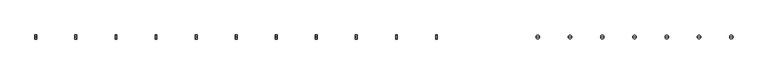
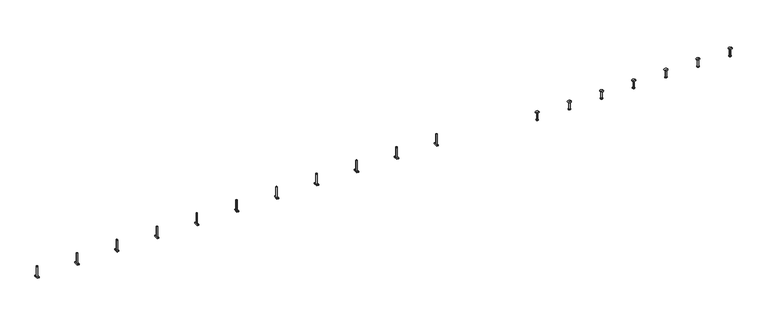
"""IFC4 building model written with IfcOpenShell, lengths in millimetres: fastener geometry, JTA-K JORDAHL® AnchorChannels : JTA-K L=6000 mm."""

from ifc_helpers import new_model, si_unit, frame, origin, place, context, project, spatial, polyline, circle_curve, source, transform, mapped, element, save
from ifc_brep_helpers import plane_surface, cylinder_surface, revolved_surface, advanced_brep


def fastener_b844dea4(model_context):
    return source(origin(), model_context, "Body", "AdvancedBrep", [
        advanced_brep(
        [(3468.8421053, 16.0, -3.0), (3468.8421053, -16.0, -3.0), (3468.8421053, -16.0, -11.0), (3468.8421053, 16.0, -11.0), (3454.8421053, 16.0, -3.0), (3454.8421053, 16.0, -11.0), (3454.8421053, -16.0, -11.0), (3454.8421053, -16.0, -3.0), (3466.8421053, 0.0, -3.0), (3456.8421053, 0.0, -3.0), (3456.8421053, 0.0, 77.0), (3466.8421053, 0.0, 77.0)],
        [
            (0, 1),
            (1, 2),
            (2, 3),
            (3, 0),
            (4, 5),
            (5, 6),
            (6, 7),
            (7, 4),
            (0, 4),
            (7, 1),
            (8, 9, circle_curve(frame((3461.8421053, 0.0, -3.0), z_axis=(0.0, 0.0, -1.0), x_axis=(1.0, 0.0, 0.0)), 5.0)),
            (9, 8, circle_curve(frame((3461.8421053, 0.0, -3.0), z_axis=(0.0, 0.0, -1.0), x_axis=(1.0, 0.0, 0.0)), 5.0)),
            (6, 2),
            (5, 3),
            (10, 11, circle_curve(frame((3461.8421053, 0.0, 77.0), z_axis=(0.0, 0.0, 1.0), x_axis=(1.0, 0.0, 0.0)), 5.0)),
            (11, 10, circle_curve(frame((3461.8421053, 0.0, 77.0), z_axis=(0.0, 0.0, 1.0), x_axis=(1.0, 0.0, 0.0)), 5.0)),
            (10, 9),
            (8, 11),
        ],
        [
            plane_surface(frame((3468.8421053, -16.0, -3.0), z_axis=(1.0, 0.0, 0.0), x_axis=(0.0, -1.0, 0.0))),
            plane_surface(frame((3454.8421053, -16.0, -3.0), z_axis=(-1.0, 0.0, 0.0), x_axis=(0.0, 1.0, 0.0))),
            plane_surface(frame((3468.8421053, 16.0, -3.0), z_axis=(0.0, 0.0, 1.0), x_axis=(-1.0, 0.0, 0.0))),
            plane_surface(frame((3468.8421053, -16.0, -3.0), z_axis=(0.0, -1.0, 0.0), x_axis=(-1.0, 0.0, 0.0))),
            plane_surface(frame((3468.8421053, -16.0, -11.0), z_axis=(0.0, 0.0, -1.0), x_axis=(-1.0, 0.0, 0.0))),
            plane_surface(frame((3468.8421053, 16.0, -11.0), z_axis=(0.0, 1.0, 0.0), x_axis=(-1.0, 0.0, 0.0))),
            plane_surface(frame((3466.8421053, 0.0, 77.0), z_axis=(0.0, 0.0, 1.0), x_axis=(0.0, 1.0, 0.0))),
            cylinder_surface(frame((3461.8421053, 0.0, -3.0), z_axis=(0.0, 0.0, 1.0), x_axis=(1.0, 0.0, 0.0)), 5.0),
        ],
        [
            (0, [[1, 2, 3, 4]]),
            (1, [[5, 6, 7, 8]]),
            (2, [[-1, 9, -8, 10], [11, 12]]),
            (3, [[-2, -10, -7, 13]]),
            (4, [[-3, -13, -6, 14]]),
            (5, [[-4, -14, -5, -9]]),
            (6, [[15, 16]]),
            (7, [[-15, 17, -11, 18]]),
            (7, [[-16, -18, -12, -17]]),
        ],
    ),
        advanced_brep(
        [(3160.9473684, 16.0, -3.0), (3160.9473684, -16.0, -3.0), (3160.9473684, -16.0, -11.0), (3160.9473684, 16.0, -11.0), (3146.9473684, 16.0, -3.0), (3146.9473684, 16.0, -11.0), (3146.9473684, -16.0, -11.0), (3146.9473684, -16.0, -3.0), (3158.9473684, 0.0, -3.0), (3148.9473684, 0.0, -3.0), (3148.9473684, 0.0, 77.0), (3158.9473684, 0.0, 77.0)],
        [
            (0, 1),
            (1, 2),
            (2, 3),
            (3, 0),
            (4, 5),
            (5, 6),
            (6, 7),
            (7, 4),
            (0, 4),
            (7, 1),
            (8, 9, circle_curve(frame((3153.9473684, 0.0, -3.0), z_axis=(0.0, 0.0, -1.0), x_axis=(1.0, 0.0, 0.0)), 5.0)),
            (9, 8, circle_curve(frame((3153.9473684, 0.0, -3.0), z_axis=(0.0, 0.0, -1.0), x_axis=(1.0, 0.0, 0.0)), 5.0)),
            (6, 2),
            (5, 3),
            (10, 11, circle_curve(frame((3153.9473684, 0.0, 77.0), z_axis=(0.0, 0.0, 1.0), x_axis=(1.0, 0.0, 0.0)), 5.0)),
            (11, 10, circle_curve(frame((3153.9473684, 0.0, 77.0), z_axis=(0.0, 0.0, 1.0), x_axis=(1.0, 0.0, 0.0)), 5.0)),
            (10, 9),
            (8, 11),
        ],
        [
            plane_surface(frame((3160.9473684, -16.0, -3.0), z_axis=(1.0, 0.0, 0.0), x_axis=(0.0, -1.0, 0.0))),
            plane_surface(frame((3146.9473684, -16.0, -3.0), z_axis=(-1.0, 0.0, 0.0), x_axis=(0.0, 1.0, 0.0))),
            plane_surface(frame((3160.9473684, 16.0, -3.0), z_axis=(0.0, 0.0, 1.0), x_axis=(-1.0, 0.0, 0.0))),
            plane_surface(frame((3160.9473684, -16.0, -3.0), z_axis=(0.0, -1.0, 0.0), x_axis=(-1.0, 0.0, 0.0))),
            plane_surface(frame((3160.9473684, -16.0, -11.0), z_axis=(0.0, 0.0, -1.0), x_axis=(-1.0, 0.0, 0.0))),
            plane_surface(frame((3160.9473684, 16.0, -11.0), z_axis=(0.0, 1.0, 0.0), x_axis=(-1.0, 0.0, 0.0))),
            plane_surface(frame((3158.9473684, 0.0, 77.0), z_axis=(0.0, 0.0, 1.0), x_axis=(0.0, 1.0, 0.0))),
            cylinder_surface(frame((3153.9473684, 0.0, -3.0), z_axis=(0.0, 0.0, 1.0), x_axis=(1.0, 0.0, 0.0)), 5.0),
        ],
        [
            (0, [[1, 2, 3, 4]]),
            (1, [[5, 6, 7, 8]]),
            (2, [[-1, 9, -8, 10], [11, 12]]),
            (3, [[-2, -10, -7, 13]]),
            (4, [[-3, -13, -6, 14]]),
            (5, [[-4, -14, -5, -9]]),
            (6, [[15, 16]]),
            (7, [[-15, 17, -11, 18]]),
            (7, [[-16, -18, -12, -17]]),
        ],
    ),
        advanced_brep(
        [(2853.0526316, 16.0, -3.0), (2853.0526316, -16.0, -3.0), (2853.0526316, -16.0, -11.0), (2853.0526316, 16.0, -11.0), (2839.0526316, 16.0, -3.0), (2839.0526316, 16.0, -11.0), (2839.0526316, -16.0, -11.0), (2839.0526316, -16.0, -3.0), (2851.0526316, 0.0, -3.0), (2841.0526316, 0.0, -3.0), (2841.0526316, 0.0, 77.0), (2851.0526316, 0.0, 77.0)],
        [
            (0, 1),
            (1, 2),
            (2, 3),
            (3, 0),
            (4, 5),
            (5, 6),
            (6, 7),
            (7, 4),
            (0, 4),
            (7, 1),
            (8, 9, circle_curve(frame((2846.0526316, 0.0, -3.0), z_axis=(0.0, 0.0, -1.0), x_axis=(1.0, 0.0, 0.0)), 5.0)),
            (9, 8, circle_curve(frame((2846.0526316, 0.0, -3.0), z_axis=(0.0, 0.0, -1.0), x_axis=(1.0, 0.0, 0.0)), 5.0)),
            (6, 2),
            (5, 3),
            (10, 11, circle_curve(frame((2846.0526316, 0.0, 77.0), z_axis=(0.0, 0.0, 1.0), x_axis=(1.0, 0.0, 0.0)), 5.0)),
            (11, 10, circle_curve(frame((2846.0526316, 0.0, 77.0), z_axis=(0.0, 0.0, 1.0), x_axis=(1.0, 0.0, 0.0)), 5.0)),
            (10, 9),
            (8, 11),
        ],
        [
            plane_surface(frame((2853.0526316, -16.0, -3.0), z_axis=(1.0, 0.0, 0.0), x_axis=(0.0, -1.0, 0.0))),
            plane_surface(frame((2839.0526316, -16.0, -3.0), z_axis=(-1.0, 0.0, 0.0), x_axis=(0.0, 1.0, 0.0))),
            plane_surface(frame((2853.0526316, 16.0, -3.0), z_axis=(0.0, 0.0, 1.0), x_axis=(-1.0, 0.0, 0.0))),
            plane_surface(frame((2853.0526316, -16.0, -3.0), z_axis=(0.0, -1.0, 0.0), x_axis=(-1.0, 0.0, 0.0))),
            plane_surface(frame((2853.0526316, -16.0, -11.0), z_axis=(0.0, 0.0, -1.0), x_axis=(-1.0, 0.0, 0.0))),
            plane_surface(frame((2853.0526316, 16.0, -11.0), z_axis=(0.0, 1.0, 0.0), x_axis=(-1.0, 0.0, 0.0))),
            plane_surface(frame((2851.0526316, 0.0, 77.0), z_axis=(0.0, 0.0, 1.0), x_axis=(0.0, 1.0, 0.0))),
            cylinder_surface(frame((2846.0526316, 0.0, -3.0), z_axis=(0.0, 0.0, 1.0), x_axis=(1.0, 0.0, 0.0)), 5.0),
        ],
        [
            (0, [[1, 2, 3, 4]]),
            (1, [[5, 6, 7, 8]]),
            (2, [[-1, 9, -8, 10], [11, 12]]),
            (3, [[-2, -10, -7, 13]]),
            (4, [[-3, -13, -6, 14]]),
            (5, [[-4, -14, -5, -9]]),
            (6, [[15, 16]]),
            (7, [[-15, 17, -11, 18]]),
            (7, [[-16, -18, -12, -17]]),
        ],
    ),
        advanced_brep(
        [(2545.1578947, 16.0, -3.0), (2545.1578947, -16.0, -3.0), (2545.1578947, -16.0, -11.0), (2545.1578947, 16.0, -11.0), (2531.1578947, 16.0, -3.0), (2531.1578947, 16.0, -11.0), (2531.1578947, -16.0, -11.0), (2531.1578947, -16.0, -3.0), (2543.1578947, 0.0, -3.0), (2533.1578947, 0.0, -3.0), (2533.1578947, 0.0, 77.0), (2543.1578947, 0.0, 77.0)],
        [
            (0, 1),
            (1, 2),
            (2, 3),
            (3, 0),
            (4, 5),
            (5, 6),
            (6, 7),
            (7, 4),
            (0, 4),
            (7, 1),
            (8, 9, circle_curve(frame((2538.1578947, 0.0, -3.0), z_axis=(0.0, 0.0, -1.0), x_axis=(1.0, 0.0, 0.0)), 5.0)),
            (9, 8, circle_curve(frame((2538.1578947, 0.0, -3.0), z_axis=(0.0, 0.0, -1.0), x_axis=(1.0, 0.0, 0.0)), 5.0)),
            (6, 2),
            (5, 3),
            (10, 11, circle_curve(frame((2538.1578947, 0.0, 77.0), z_axis=(0.0, 0.0, 1.0), x_axis=(1.0, 0.0, 0.0)), 5.0)),
            (11, 10, circle_curve(frame((2538.1578947, 0.0, 77.0), z_axis=(0.0, 0.0, 1.0), x_axis=(1.0, 0.0, 0.0)), 5.0)),
            (10, 9),
            (8, 11),
        ],
        [
            plane_surface(frame((2545.1578947, -16.0, -3.0), z_axis=(1.0, 0.0, 0.0), x_axis=(0.0, -1.0, 0.0))),
            plane_surface(frame((2531.1578947, -16.0, -3.0), z_axis=(-1.0, 0.0, 0.0), x_axis=(0.0, 1.0, 0.0))),
            plane_surface(frame((2545.1578947, 16.0, -3.0), z_axis=(0.0, 0.0, 1.0), x_axis=(-1.0, 0.0, 0.0))),
            plane_surface(frame((2545.1578947, -16.0, -3.0), z_axis=(0.0, -1.0, 0.0), x_axis=(-1.0, 0.0, 0.0))),
            plane_surface(frame((2545.1578947, -16.0, -11.0), z_axis=(0.0, 0.0, -1.0), x_axis=(-1.0, 0.0, 0.0))),
            plane_surface(frame((2545.1578947, 16.0, -11.0), z_axis=(0.0, 1.0, 0.0), x_axis=(-1.0, 0.0, 0.0))),
            plane_surface(frame((2543.1578947, 0.0, 77.0), z_axis=(0.0, 0.0, 1.0), x_axis=(0.0, 1.0, 0.0))),
            cylinder_surface(frame((2538.1578947, 0.0, -3.0), z_axis=(0.0, 0.0, 1.0), x_axis=(1.0, 0.0, 0.0)), 5.0),
        ],
        [
            (0, [[1, 2, 3, 4]]),
            (1, [[5, 6, 7, 8]]),
            (2, [[-1, 9, -8, 10], [11, 12]]),
            (3, [[-2, -10, -7, 13]]),
            (4, [[-3, -13, -6, 14]]),
            (5, [[-4, -14, -5, -9]]),
            (6, [[15, 16]]),
            (7, [[-15, 17, -11, 18]]),
            (7, [[-16, -18, -12, -17]]),
        ],
    ),
        advanced_brep(
        [(2237.2631579, 16.0, -3.0), (2237.2631579, -16.0, -3.0), (2237.2631579, -16.0, -11.0), (2237.2631579, 16.0, -11.0), (2223.2631579, 16.0, -3.0), (2223.2631579, 16.0, -11.0), (2223.2631579, -16.0, -11.0), (2223.2631579, -16.0, -3.0), (2235.2631579, 0.0, -3.0), (2225.2631579, 0.0, -3.0), (2225.2631579, 0.0, 77.0), (2235.2631579, 0.0, 77.0)],
        [
            (0, 1),
            (1, 2),
            (2, 3),
            (3, 0),
            (4, 5),
            (5, 6),
            (6, 7),
            (7, 4),
            (0, 4),
            (7, 1),
            (8, 9, circle_curve(frame((2230.2631579, 0.0, -3.0), z_axis=(0.0, 0.0, -1.0), x_axis=(1.0, 0.0, 0.0)), 5.0)),
            (9, 8, circle_curve(frame((2230.2631579, 0.0, -3.0), z_axis=(0.0, 0.0, -1.0), x_axis=(1.0, 0.0, 0.0)), 5.0)),
            (6, 2),
            (5, 3),
            (10, 11, circle_curve(frame((2230.2631579, 0.0, 77.0), z_axis=(0.0, 0.0, 1.0), x_axis=(1.0, 0.0, 0.0)), 5.0)),
            (11, 10, circle_curve(frame((2230.2631579, 0.0, 77.0), z_axis=(0.0, 0.0, 1.0), x_axis=(1.0, 0.0, 0.0)), 5.0)),
            (10, 9),
            (8, 11),
        ],
        [
            plane_surface(frame((2237.2631579, -16.0, -3.0), z_axis=(1.0, 0.0, 0.0), x_axis=(0.0, -1.0, 0.0))),
            plane_surface(frame((2223.2631579, -16.0, -3.0), z_axis=(-1.0, 0.0, 0.0), x_axis=(0.0, 1.0, 0.0))),
            plane_surface(frame((2237.2631579, 16.0, -3.0), z_axis=(0.0, 0.0, 1.0), x_axis=(-1.0, 0.0, 0.0))),
            plane_surface(frame((2237.2631579, -16.0, -3.0), z_axis=(0.0, -1.0, 0.0), x_axis=(-1.0, 0.0, 0.0))),
            plane_surface(frame((2237.2631579, -16.0, -11.0), z_axis=(0.0, 0.0, -1.0), x_axis=(-1.0, 0.0, 0.0))),
            plane_surface(frame((2237.2631579, 16.0, -11.0), z_axis=(0.0, 1.0, 0.0), x_axis=(-1.0, 0.0, 0.0))),
            plane_surface(frame((2235.2631579, 0.0, 77.0), z_axis=(0.0, 0.0, 1.0), x_axis=(0.0, 1.0, 0.0))),
            cylinder_surface(frame((2230.2631579, 0.0, -3.0), z_axis=(0.0, 0.0, 1.0), x_axis=(1.0, 0.0, 0.0)), 5.0),
        ],
        [
            (0, [[1, 2, 3, 4]]),
            (1, [[5, 6, 7, 8]]),
            (2, [[-1, 9, -8, 10], [11, 12]]),
            (3, [[-2, -10, -7, 13]]),
            (4, [[-3, -13, -6, 14]]),
            (5, [[-4, -14, -5, -9]]),
            (6, [[15, 16]]),
            (7, [[-15, 17, -11, 18]]),
            (7, [[-16, -18, -12, -17]]),
        ],
    ),
        advanced_brep(
        [(1929.3684211, 16.0, -3.0), (1929.3684211, -16.0, -3.0), (1929.3684211, -16.0, -11.0), (1929.3684211, 16.0, -11.0), (1915.3684211, 16.0, -3.0), (1915.3684211, 16.0, -11.0), (1915.3684211, -16.0, -11.0), (1915.3684211, -16.0, -3.0), (1927.3684211, 0.0, -3.0), (1917.3684211, 0.0, -3.0), (1917.3684211, 0.0, 77.0), (1927.3684211, 0.0, 77.0)],
        [
            (0, 1),
            (1, 2),
            (2, 3),
            (3, 0),
            (4, 5),
            (5, 6),
            (6, 7),
            (7, 4),
            (0, 4),
            (7, 1),
            (8, 9, circle_curve(frame((1922.3684211, 0.0, -3.0), z_axis=(0.0, 0.0, -1.0), x_axis=(1.0, 0.0, 0.0)), 5.0)),
            (9, 8, circle_curve(frame((1922.3684211, 0.0, -3.0), z_axis=(0.0, 0.0, -1.0), x_axis=(1.0, 0.0, 0.0)), 5.0)),
            (6, 2),
            (5, 3),
            (10, 11, circle_curve(frame((1922.3684211, 0.0, 77.0), z_axis=(0.0, 0.0, 1.0), x_axis=(1.0, 0.0, 0.0)), 5.0)),
            (11, 10, circle_curve(frame((1922.3684211, 0.0, 77.0), z_axis=(0.0, 0.0, 1.0), x_axis=(1.0, 0.0, 0.0)), 5.0)),
            (10, 9),
            (8, 11),
        ],
        [
            plane_surface(frame((1929.3684211, -16.0, -3.0), z_axis=(1.0, 0.0, 0.0), x_axis=(0.0, -1.0, 0.0))),
            plane_surface(frame((1915.3684211, -16.0, -3.0), z_axis=(-1.0, 0.0, 0.0), x_axis=(0.0, 1.0, 0.0))),
            plane_surface(frame((1929.3684211, 16.0, -3.0), z_axis=(0.0, 0.0, 1.0), x_axis=(-1.0, 0.0, 0.0))),
            plane_surface(frame((1929.3684211, -16.0, -3.0), z_axis=(0.0, -1.0, 0.0), x_axis=(-1.0, 0.0, 0.0))),
            plane_surface(frame((1929.3684211, -16.0, -11.0), z_axis=(0.0, 0.0, -1.0), x_axis=(-1.0, 0.0, 0.0))),
            plane_surface(frame((1929.3684211, 16.0, -11.0), z_axis=(0.0, 1.0, 0.0), x_axis=(-1.0, 0.0, 0.0))),
            plane_surface(frame((1927.3684211, 0.0, 77.0), z_axis=(0.0, 0.0, 1.0), x_axis=(0.0, 1.0, 0.0))),
            cylinder_surface(frame((1922.3684211, 0.0, -3.0), z_axis=(0.0, 0.0, 1.0), x_axis=(1.0, 0.0, 0.0)), 5.0),
        ],
        [
            (0, [[1, 2, 3, 4]]),
            (1, [[5, 6, 7, 8]]),
            (2, [[-1, 9, -8, 10], [11, 12]]),
            (3, [[-2, -10, -7, 13]]),
            (4, [[-3, -13, -6, 14]]),
            (5, [[-4, -14, -5, -9]]),
            (6, [[15, 16]]),
            (7, [[-15, 17, -11, 18]]),
            (7, [[-16, -18, -12, -17]]),
        ],
    ),
        advanced_brep(
        [(1621.4736842, 16.0, -3.0), (1621.4736842, -16.0, -3.0), (1621.4736842, -16.0, -11.0), (1621.4736842, 16.0, -11.0), (1607.4736842, 16.0, -3.0), (1607.4736842, 16.0, -11.0), (1607.4736842, -16.0, -11.0), (1607.4736842, -16.0, -3.0), (1619.4736842, 0.0, -3.0), (1609.4736842, 0.0, -3.0), (1609.4736842, 0.0, 77.0), (1619.4736842, 0.0, 77.0)],
        [
            (0, 1),
            (1, 2),
            (2, 3),
            (3, 0),
            (4, 5),
            (5, 6),
            (6, 7),
            (7, 4),
            (0, 4),
            (7, 1),
            (8, 9, circle_curve(frame((1614.4736842, 0.0, -3.0), z_axis=(0.0, 0.0, -1.0), x_axis=(1.0, 0.0, 0.0)), 5.0)),
            (9, 8, circle_curve(frame((1614.4736842, 0.0, -3.0), z_axis=(0.0, 0.0, -1.0), x_axis=(1.0, 0.0, 0.0)), 5.0)),
            (6, 2),
            (5, 3),
            (10, 11, circle_curve(frame((1614.4736842, 0.0, 77.0), z_axis=(0.0, 0.0, 1.0), x_axis=(1.0, 0.0, 0.0)), 5.0)),
            (11, 10, circle_curve(frame((1614.4736842, 0.0, 77.0), z_axis=(0.0, 0.0, 1.0), x_axis=(1.0, 0.0, 0.0)), 5.0)),
            (10, 9),
            (8, 11),
        ],
        [
            plane_surface(frame((1621.4736842, -16.0, -3.0), z_axis=(1.0, 0.0, 0.0), x_axis=(0.0, -1.0, 0.0))),
            plane_surface(frame((1607.4736842, -16.0, -3.0), z_axis=(-1.0, 0.0, 0.0), x_axis=(0.0, 1.0, 0.0))),
            plane_surface(frame((1621.4736842, 16.0, -3.0), z_axis=(0.0, 0.0, 1.0), x_axis=(-1.0, 0.0, 0.0))),
            plane_surface(frame((1621.4736842, -16.0, -3.0), z_axis=(0.0, -1.0, 0.0), x_axis=(-1.0, 0.0, 0.0))),
            plane_surface(frame((1621.4736842, -16.0, -11.0), z_axis=(0.0, 0.0, -1.0), x_axis=(-1.0, 0.0, 0.0))),
            plane_surface(frame((1621.4736842, 16.0, -11.0), z_axis=(0.0, 1.0, 0.0), x_axis=(-1.0, 0.0, 0.0))),
            plane_surface(frame((1619.4736842, 0.0, 77.0), z_axis=(0.0, 0.0, 1.0), x_axis=(0.0, 1.0, 0.0))),
            cylinder_surface(frame((1614.4736842, 0.0, -3.0), z_axis=(0.0, 0.0, 1.0), x_axis=(1.0, 0.0, 0.0)), 5.0),
        ],
        [
            (0, [[1, 2, 3, 4]]),
            (1, [[5, 6, 7, 8]]),
            (2, [[-1, 9, -8, 10], [11, 12]]),
            (3, [[-2, -10, -7, 13]]),
            (4, [[-3, -13, -6, 14]]),
            (5, [[-4, -14, -5, -9]]),
            (6, [[15, 16]]),
            (7, [[-15, 17, -11, 18]]),
            (7, [[-16, -18, -12, -17]]),
        ],
    ),
        advanced_brep(
        [(1313.5789474, 16.0, -3.0), (1313.5789474, -16.0, -3.0), (1313.5789474, -16.0, -11.0), (1313.5789474, 16.0, -11.0), (1299.5789474, 16.0, -3.0), (1299.5789474, 16.0, -11.0), (1299.5789474, -16.0, -11.0), (1299.5789474, -16.0, -3.0), (1311.5789474, 0.0, -3.0), (1301.5789474, 0.0, -3.0), (1301.5789474, 0.0, 77.0), (1311.5789474, 0.0, 77.0)],
        [
            (0, 1),
            (1, 2),
            (2, 3),
            (3, 0),
            (4, 5),
            (5, 6),
            (6, 7),
            (7, 4),
            (0, 4),
            (7, 1),
            (8, 9, circle_curve(frame((1306.5789474, 0.0, -3.0), z_axis=(0.0, 0.0, -1.0), x_axis=(1.0, 0.0, 0.0)), 5.0)),
            (9, 8, circle_curve(frame((1306.5789474, 0.0, -3.0), z_axis=(0.0, 0.0, -1.0), x_axis=(1.0, 0.0, 0.0)), 5.0)),
            (6, 2),
            (5, 3),
            (10, 11, circle_curve(frame((1306.5789474, 0.0, 77.0), z_axis=(0.0, 0.0, 1.0), x_axis=(1.0, 0.0, 0.0)), 5.0)),
            (11, 10, circle_curve(frame((1306.5789474, 0.0, 77.0), z_axis=(0.0, 0.0, 1.0), x_axis=(1.0, 0.0, 0.0)), 5.0)),
            (10, 9),
            (8, 11),
        ],
        [
            plane_surface(frame((1313.5789474, -16.0, -3.0), z_axis=(1.0, 0.0, 0.0), x_axis=(0.0, -1.0, 0.0))),
            plane_surface(frame((1299.5789474, -16.0, -3.0), z_axis=(-1.0, 0.0, 0.0), x_axis=(0.0, 1.0, 0.0))),
            plane_surface(frame((1313.5789474, 16.0, -3.0), z_axis=(0.0, 0.0, 1.0), x_axis=(-1.0, 0.0, 0.0))),
            plane_surface(frame((1313.5789474, -16.0, -3.0), z_axis=(0.0, -1.0, 0.0), x_axis=(-1.0, 0.0, 0.0))),
            plane_surface(frame((1313.5789474, -16.0, -11.0), z_axis=(0.0, 0.0, -1.0), x_axis=(-1.0, 0.0, 0.0))),
            plane_surface(frame((1313.5789474, 16.0, -11.0), z_axis=(0.0, 1.0, 0.0), x_axis=(-1.0, 0.0, 0.0))),
            plane_surface(frame((1311.5789474, 0.0, 77.0), z_axis=(0.0, 0.0, 1.0), x_axis=(0.0, 1.0, 0.0))),
            cylinder_surface(frame((1306.5789474, 0.0, -3.0), z_axis=(0.0, 0.0, 1.0), x_axis=(1.0, 0.0, 0.0)), 5.0),
        ],
        [
            (0, [[1, 2, 3, 4]]),
            (1, [[5, 6, 7, 8]]),
            (2, [[-1, 9, -8, 10], [11, 12]]),
            (3, [[-2, -10, -7, 13]]),
            (4, [[-3, -13, -6, 14]]),
            (5, [[-4, -14, -5, -9]]),
            (6, [[15, 16]]),
            (7, [[-15, 17, -11, 18]]),
            (7, [[-16, -18, -12, -17]]),
        ],
    ),
        advanced_brep(
        [(1005.6842105, 16.0, -3.0), (1005.6842105, -16.0, -3.0), (1005.6842105, -16.0, -11.0), (1005.6842105, 16.0, -11.0), (991.6842105, 16.0, -3.0), (991.6842105, 16.0, -11.0), (991.6842105, -16.0, -11.0), (991.6842105, -16.0, -3.0), (1003.6842105, 0.0, -3.0), (993.6842105, 0.0, -3.0), (993.6842105, 0.0, 77.0), (1003.6842105, 0.0, 77.0)],
        [
            (0, 1),
            (1, 2),
            (2, 3),
            (3, 0),
            (4, 5),
            (5, 6),
            (6, 7),
            (7, 4),
            (0, 4),
            (7, 1),
            (8, 9, circle_curve(frame((998.6842105, 0.0, -3.0), z_axis=(0.0, 0.0, -1.0), x_axis=(1.0, 0.0, 0.0)), 5.0)),
            (9, 8, circle_curve(frame((998.6842105, 0.0, -3.0), z_axis=(0.0, 0.0, -1.0), x_axis=(1.0, 0.0, 0.0)), 5.0)),
            (6, 2),
            (5, 3),
            (10, 11, circle_curve(frame((998.6842105, 0.0, 77.0), z_axis=(0.0, 0.0, 1.0), x_axis=(1.0, 0.0, 0.0)), 5.0)),
            (11, 10, circle_curve(frame((998.6842105, 0.0, 77.0), z_axis=(0.0, 0.0, 1.0), x_axis=(1.0, 0.0, 0.0)), 5.0)),
            (10, 9),
            (8, 11),
        ],
        [
            plane_surface(frame((1005.6842105, -16.0, -3.0), z_axis=(1.0, 0.0, 0.0), x_axis=(0.0, -1.0, 0.0))),
            plane_surface(frame((991.6842105, -16.0, -3.0), z_axis=(-1.0, 0.0, 0.0), x_axis=(0.0, 1.0, 0.0))),
            plane_surface(frame((1005.6842105, 16.0, -3.0), z_axis=(0.0, 0.0, 1.0), x_axis=(-1.0, 0.0, 0.0))),
            plane_surface(frame((1005.6842105, -16.0, -3.0), z_axis=(0.0, -1.0, 0.0), x_axis=(-1.0, 0.0, 0.0))),
            plane_surface(frame((1005.6842105, -16.0, -11.0), z_axis=(0.0, 0.0, -1.0), x_axis=(-1.0, 0.0, 0.0))),
            plane_surface(frame((1005.6842105, 16.0, -11.0), z_axis=(0.0, 1.0, 0.0), x_axis=(-1.0, 0.0, 0.0))),
            plane_surface(frame((1003.6842105, 0.0, 77.0), z_axis=(0.0, 0.0, 1.0), x_axis=(0.0, 1.0, 0.0))),
            cylinder_surface(frame((998.6842105, 0.0, -3.0), z_axis=(0.0, 0.0, 1.0), x_axis=(1.0, 0.0, 0.0)), 5.0),
        ],
        [
            (0, [[1, 2, 3, 4]]),
            (1, [[5, 6, 7, 8]]),
            (2, [[-1, 9, -8, 10], [11, 12]]),
            (3, [[-2, -10, -7, 13]]),
            (4, [[-3, -13, -6, 14]]),
            (5, [[-4, -14, -5, -9]]),
            (6, [[15, 16]]),
            (7, [[-15, 17, -11, 18]]),
            (7, [[-16, -18, -12, -17]]),
        ],
    ),
        advanced_brep(
        [(697.7894737, 16.0, -3.0), (697.7894737, -16.0, -3.0), (697.7894737, -16.0, -11.0), (697.7894737, 16.0, -11.0), (683.7894737, 16.0, -3.0), (683.7894737, 16.0, -11.0), (683.7894737, -16.0, -11.0), (683.7894737, -16.0, -3.0), (695.7894737, 0.0, -3.0), (685.7894737, 0.0, -3.0), (685.7894737, 0.0, 77.0), (695.7894737, 0.0, 77.0)],
        [
            (0, 1),
            (1, 2),
            (2, 3),
            (3, 0),
            (4, 5),
            (5, 6),
            (6, 7),
            (7, 4),
            (0, 4),
            (7, 1),
            (8, 9, circle_curve(frame((690.7894737, 0.0, -3.0), z_axis=(0.0, 0.0, -1.0), x_axis=(1.0, 0.0, 0.0)), 5.0)),
            (9, 8, circle_curve(frame((690.7894737, 0.0, -3.0), z_axis=(0.0, 0.0, -1.0), x_axis=(1.0, 0.0, 0.0)), 5.0)),
            (6, 2),
            (5, 3),
            (10, 11, circle_curve(frame((690.7894737, 0.0, 77.0), z_axis=(0.0, 0.0, 1.0), x_axis=(1.0, 0.0, 0.0)), 5.0)),
            (11, 10, circle_curve(frame((690.7894737, 0.0, 77.0), z_axis=(0.0, 0.0, 1.0), x_axis=(1.0, 0.0, 0.0)), 5.0)),
            (10, 9),
            (8, 11),
        ],
        [
            plane_surface(frame((697.7894737, -16.0, -3.0), z_axis=(1.0, 0.0, 0.0), x_axis=(0.0, -1.0, 0.0))),
            plane_surface(frame((683.7894737, -16.0, -3.0), z_axis=(-1.0, 0.0, 0.0), x_axis=(0.0, 1.0, 0.0))),
            plane_surface(frame((697.7894737, 16.0, -3.0), z_axis=(0.0, 0.0, 1.0), x_axis=(-1.0, 0.0, 0.0))),
            plane_surface(frame((697.7894737, -16.0, -3.0), z_axis=(0.0, -1.0, 0.0), x_axis=(-1.0, 0.0, 0.0))),
            plane_surface(frame((697.7894737, -16.0, -11.0), z_axis=(0.0, 0.0, -1.0), x_axis=(-1.0, 0.0, 0.0))),
            plane_surface(frame((697.7894737, 16.0, -11.0), z_axis=(0.0, 1.0, 0.0), x_axis=(-1.0, 0.0, 0.0))),
            plane_surface(frame((695.7894737, 0.0, 77.0), z_axis=(0.0, 0.0, 1.0), x_axis=(0.0, 1.0, 0.0))),
            cylinder_surface(frame((690.7894737, 0.0, -3.0), z_axis=(0.0, 0.0, 1.0), x_axis=(1.0, 0.0, 0.0)), 5.0),
        ],
        [
            (0, [[1, 2, 3, 4]]),
            (1, [[5, 6, 7, 8]]),
            (2, [[-1, 9, -8, 10], [11, 12]]),
            (3, [[-2, -10, -7, 13]]),
            (4, [[-3, -13, -6, 14]]),
            (5, [[-4, -14, -5, -9]]),
            (6, [[15, 16]]),
            (7, [[-15, 17, -11, 18]]),
            (7, [[-16, -18, -12, -17]]),
        ],
    ),
        advanced_brep(
        [(389.8947368, 16.0, -3.0), (389.8947368, -16.0, -3.0), (389.8947368, -16.0, -11.0), (389.8947368, 16.0, -11.0), (375.8947368, 16.0, -3.0), (375.8947368, 16.0, -11.0), (375.8947368, -16.0, -11.0), (375.8947368, -16.0, -3.0), (387.8947368, 0.0, -3.0), (377.8947368, 0.0, -3.0), (377.8947368, 0.0, 77.0), (387.8947368, 0.0, 77.0)],
        [
            (0, 1),
            (1, 2),
            (2, 3),
            (3, 0),
            (4, 5),
            (5, 6),
            (6, 7),
            (7, 4),
            (0, 4),
            (7, 1),
            (8, 9, circle_curve(frame((382.8947368, 0.0, -3.0), z_axis=(0.0, 0.0, -1.0), x_axis=(1.0, 0.0, 0.0)), 5.0)),
            (9, 8, circle_curve(frame((382.8947368, 0.0, -3.0), z_axis=(0.0, 0.0, -1.0), x_axis=(1.0, 0.0, 0.0)), 5.0)),
            (6, 2),
            (5, 3),
            (10, 11, circle_curve(frame((382.8947368, 0.0, 77.0), z_axis=(0.0, 0.0, 1.0), x_axis=(1.0, 0.0, 0.0)), 5.0)),
            (11, 10, circle_curve(frame((382.8947368, 0.0, 77.0), z_axis=(0.0, 0.0, 1.0), x_axis=(1.0, 0.0, 0.0)), 5.0)),
            (10, 9),
            (8, 11),
        ],
        [
            plane_surface(frame((389.8947368, -16.0, -3.0), z_axis=(1.0, 0.0, 0.0), x_axis=(0.0, -1.0, 0.0))),
            plane_surface(frame((375.8947368, -16.0, -3.0), z_axis=(-1.0, 0.0, 0.0), x_axis=(0.0, 1.0, 0.0))),
            plane_surface(frame((389.8947368, 16.0, -3.0), z_axis=(0.0, 0.0, 1.0), x_axis=(-1.0, 0.0, 0.0))),
            plane_surface(frame((389.8947368, -16.0, -3.0), z_axis=(0.0, -1.0, 0.0), x_axis=(-1.0, 0.0, 0.0))),
            plane_surface(frame((389.8947368, -16.0, -11.0), z_axis=(0.0, 0.0, -1.0), x_axis=(-1.0, 0.0, 0.0))),
            plane_surface(frame((389.8947368, 16.0, -11.0), z_axis=(0.0, 1.0, 0.0), x_axis=(-1.0, 0.0, 0.0))),
            plane_surface(frame((387.8947368, 0.0, 77.0), z_axis=(0.0, 0.0, 1.0), x_axis=(0.0, 1.0, 0.0))),
            cylinder_surface(frame((382.8947368, 0.0, -3.0), z_axis=(0.0, 0.0, 1.0), x_axis=(1.0, 0.0, 0.0)), 5.0),
        ],
        [
            (0, [[1, 2, 3, 4]]),
            (1, [[5, 6, 7, 8]]),
            (2, [[-1, 9, -8, 10], [11, 12]]),
            (3, [[-2, -10, -7, 13]]),
            (4, [[-3, -13, -6, 14]]),
            (5, [[-4, -14, -5, -9]]),
            (6, [[15, 16]]),
            (7, [[-15, 17, -11, 18]]),
            (7, [[-16, -18, -12, -17]]),
        ],
    ),
        advanced_brep(
        [(5727.0833333, 0.0, -17.0), (5740.5833333, 0.0, -17.0), (5713.5833333, 0.0, -17.0), (5718.5833333, 0.0, -80.0), (5735.5833333, 0.0, -80.0), (5727.0833333, 0.0, -80.0), (5718.5833333, 0.0, -78.0), (5735.5833333, 0.0, -78.0), (5722.5833333, 0.0, -75.6905989), (5731.5833333, 0.0, -75.6905989), (5722.5833333, 0.0, -19.5), (5731.5833333, 0.0, -19.5)],
        [
            (0, 1),
            (1, 2, circle_curve(frame((5727.0833333, 0.0, -17.0), z_axis=(0.0, 0.0, 1.0), x_axis=(1.0, 0.0, 0.0)), 13.5)),
            (2, 0),
            (2, 1, circle_curve(frame((5727.0833333, 0.0, -17.0), z_axis=(0.0, 0.0, 1.0), x_axis=(1.0, 0.0, 0.0)), 13.5)),
            (3, 4, circle_curve(frame((5727.0833333, 0.0, -80.0), z_axis=(0.0, 0.0, -1.0), x_axis=(1.0, 0.0, 0.0)), 8.5)),
            (4, 5),
            (5, 3),
            (4, 3, circle_curve(frame((5727.0833333, 0.0, -80.0), z_axis=(0.0, 0.0, -1.0), x_axis=(1.0, 0.0, 0.0)), 8.5)),
            (6, 7, circle_curve(frame((5727.0833333, 0.0, -78.0), z_axis=(0.0, 0.0, -1.0), x_axis=(1.0, 0.0, 0.0)), 8.5)),
            (7, 4),
            (3, 6),
            (7, 6, circle_curve(frame((5727.0833333, 0.0, -78.0), z_axis=(0.0, 0.0, -1.0), x_axis=(1.0, 0.0, 0.0)), 8.5)),
            (8, 9, circle_curve(frame((5727.0833333, 0.0, -75.6905989), z_axis=(0.0, 0.0, -1.0), x_axis=(1.0, 0.0, 0.0)), 4.5)),
            (9, 7),
            (6, 8),
            (9, 8, circle_curve(frame((5727.0833333, 0.0, -75.6905989), z_axis=(0.0, 0.0, -1.0), x_axis=(1.0, 0.0, 0.0)), 4.5)),
            (10, 11, circle_curve(frame((5727.0833333, 0.0, -19.5), z_axis=(0.0, 0.0, -1.0), x_axis=(1.0, 0.0, 0.0)), 4.5)),
            (11, 9),
            (8, 10),
            (11, 10, circle_curve(frame((5727.0833333, 0.0, -19.5), z_axis=(0.0, 0.0, -1.0), x_axis=(1.0, 0.0, 0.0)), 4.5)),
            (1, 11),
            (10, 2),
        ],
        [
            plane_surface(frame((5727.0833333, 0.0, -17.0), z_axis=(0.0, 0.0, 1.0), x_axis=(1.0, 0.0, 0.0))),
            plane_surface(frame((5727.0833333, 0.0, -80.0), z_axis=(0.0, 0.0, -1.0), x_axis=(1.0, 0.0, 0.0))),
            cylinder_surface(frame((5727.0833333, 0.0, 2277.3150031), z_axis=(0.0, 0.0, 1.0), x_axis=(1.0, 0.0, 0.0)), 8.5),
            revolved_surface(polyline([(5735.5833333, 0.0, -78.0), (5731.5833333, 0.0, -75.6905989)]), (5727.0833333, 0.0, 2277.3150031), (0.0, 0.0, 1.0)),
            cylinder_surface(frame((5727.0833333, 0.0, 2277.3150031), z_axis=(0.0, 0.0, 1.0), x_axis=(1.0, 0.0, 0.0)), 4.5),
            revolved_surface(polyline([(5731.5833333, 0.0, -19.5), (5740.5833333, 0.0, -17.0)]), (5727.0833333, 0.0, 2277.3150031), (0.0, 0.0, 1.0)),
        ],
        [
            (0, [[1, 2, 3]]),
            (0, [[-3, 4, -1]]),
            (1, [[5, 6, 7]]),
            (1, [[8, -7, -6]]),
            (2, [[9, 10, -5, 11]]),
            (2, [[12, -11, -8, -10]]),
            (3, [[13, 14, -9, 15]]),
            (3, [[16, -15, -12, -14]]),
            (4, [[17, 18, -13, 19]]),
            (4, [[20, -19, -16, -18]]),
            (5, [[-2, 21, -17, 22]]),
            (5, [[-4, -22, -20, -21]]),
        ],
    ),
        advanced_brep(
        [(5479.1666667, 0.0, -17.0), (5492.6666667, 0.0, -17.0), (5465.6666667, 0.0, -17.0), (5470.6666667, 0.0, -80.0), (5487.6666667, 0.0, -80.0), (5479.1666667, 0.0, -80.0), (5470.6666667, 0.0, -78.0), (5487.6666667, 0.0, -78.0), (5474.6666667, 0.0, -75.6905989), (5483.6666667, 0.0, -75.6905989), (5474.6666667, 0.0, -19.5), (5483.6666667, 0.0, -19.5)],
        [
            (0, 1),
            (1, 2, circle_curve(frame((5479.1666667, 0.0, -17.0), z_axis=(0.0, 0.0, 1.0), x_axis=(1.0, 0.0, 0.0)), 13.5)),
            (2, 0),
            (2, 1, circle_curve(frame((5479.1666667, 0.0, -17.0), z_axis=(0.0, 0.0, 1.0), x_axis=(1.0, 0.0, 0.0)), 13.5)),
            (3, 4, circle_curve(frame((5479.1666667, 0.0, -80.0), z_axis=(0.0, 0.0, -1.0), x_axis=(1.0, 0.0, 0.0)), 8.5)),
            (4, 5),
            (5, 3),
            (4, 3, circle_curve(frame((5479.1666667, 0.0, -80.0), z_axis=(0.0, 0.0, -1.0), x_axis=(1.0, 0.0, 0.0)), 8.5)),
            (6, 7, circle_curve(frame((5479.1666667, 0.0, -78.0), z_axis=(0.0, 0.0, -1.0), x_axis=(1.0, 0.0, 0.0)), 8.5)),
            (7, 4),
            (3, 6),
            (7, 6, circle_curve(frame((5479.1666667, 0.0, -78.0), z_axis=(0.0, 0.0, -1.0), x_axis=(1.0, 0.0, 0.0)), 8.5)),
            (8, 9, circle_curve(frame((5479.1666667, 0.0, -75.6905989), z_axis=(0.0, 0.0, -1.0), x_axis=(1.0, 0.0, 0.0)), 4.5)),
            (9, 7),
            (6, 8),
            (9, 8, circle_curve(frame((5479.1666667, 0.0, -75.6905989), z_axis=(0.0, 0.0, -1.0), x_axis=(1.0, 0.0, 0.0)), 4.5)),
            (10, 11, circle_curve(frame((5479.1666667, 0.0, -19.5), z_axis=(0.0, 0.0, -1.0), x_axis=(1.0, 0.0, 0.0)), 4.5)),
            (11, 9),
            (8, 10),
            (11, 10, circle_curve(frame((5479.1666667, 0.0, -19.5), z_axis=(0.0, 0.0, -1.0), x_axis=(1.0, 0.0, 0.0)), 4.5)),
            (1, 11),
            (10, 2),
        ],
        [
            plane_surface(frame((5479.1666667, 0.0, -17.0), z_axis=(0.0, 0.0, 1.0), x_axis=(1.0, 0.0, 0.0))),
            plane_surface(frame((5479.1666667, 0.0, -80.0), z_axis=(0.0, 0.0, -1.0), x_axis=(1.0, 0.0, 0.0))),
            cylinder_surface(frame((5479.1666667, 0.0, 2277.3150031), z_axis=(0.0, 0.0, 1.0), x_axis=(1.0, 0.0, 0.0)), 8.5),
            revolved_surface(polyline([(5487.6666667, 0.0, -78.0), (5483.6666667, 0.0, -75.6905989)]), (5479.1666667, 0.0, 2277.3150031), (0.0, 0.0, 1.0)),
            cylinder_surface(frame((5479.1666667, 0.0, 2277.3150031), z_axis=(0.0, 0.0, 1.0), x_axis=(1.0, 0.0, 0.0)), 4.5),
            revolved_surface(polyline([(5483.6666667, 0.0, -19.5), (5492.6666667, 0.0, -17.0)]), (5479.1666667, 0.0, 2277.3150031), (0.0, 0.0, 1.0)),
        ],
        [
            (0, [[1, 2, 3]]),
            (0, [[-3, 4, -1]]),
            (1, [[5, 6, 7]]),
            (1, [[8, -7, -6]]),
            (2, [[9, 10, -5, 11]]),
            (2, [[12, -11, -8, -10]]),
            (3, [[13, 14, -9, 15]]),
            (3, [[16, -15, -12, -14]]),
            (4, [[17, 18, -13, 19]]),
            (4, [[20, -19, -16, -18]]),
            (5, [[-2, 21, -17, 22]]),
            (5, [[-4, -22, -20, -21]]),
        ],
    ),
        advanced_brep(
        [(5231.25, 0.0, -17.0), (5244.75, 0.0, -17.0), (5217.75, 0.0, -17.0), (5222.75, 0.0, -80.0), (5239.75, 0.0, -80.0), (5231.25, 0.0, -80.0), (5222.75, 0.0, -78.0), (5239.75, 0.0, -78.0), (5226.75, 0.0, -75.6905989), (5235.75, 0.0, -75.6905989), (5226.75, 0.0, -19.5), (5235.75, 0.0, -19.5)],
        [
            (0, 1),
            (1, 2, circle_curve(frame((5231.25, 0.0, -17.0), z_axis=(0.0, 0.0, 1.0), x_axis=(1.0, 0.0, 0.0)), 13.5)),
            (2, 0),
            (2, 1, circle_curve(frame((5231.25, 0.0, -17.0), z_axis=(0.0, 0.0, 1.0), x_axis=(1.0, 0.0, 0.0)), 13.5)),
            (3, 4, circle_curve(frame((5231.25, 0.0, -80.0), z_axis=(0.0, 0.0, -1.0), x_axis=(1.0, 0.0, 0.0)), 8.5)),
            (4, 5),
            (5, 3),
            (4, 3, circle_curve(frame((5231.25, 0.0, -80.0), z_axis=(0.0, 0.0, -1.0), x_axis=(1.0, 0.0, 0.0)), 8.5)),
            (6, 7, circle_curve(frame((5231.25, 0.0, -78.0), z_axis=(0.0, 0.0, -1.0), x_axis=(1.0, 0.0, 0.0)), 8.5)),
            (7, 4),
            (3, 6),
            (7, 6, circle_curve(frame((5231.25, 0.0, -78.0), z_axis=(0.0, 0.0, -1.0), x_axis=(1.0, 0.0, 0.0)), 8.5)),
            (8, 9, circle_curve(frame((5231.25, 0.0, -75.6905989), z_axis=(0.0, 0.0, -1.0), x_axis=(1.0, 0.0, 0.0)), 4.5)),
            (9, 7),
            (6, 8),
            (9, 8, circle_curve(frame((5231.25, 0.0, -75.6905989), z_axis=(0.0, 0.0, -1.0), x_axis=(1.0, 0.0, 0.0)), 4.5)),
            (10, 11, circle_curve(frame((5231.25, 0.0, -19.5), z_axis=(0.0, 0.0, -1.0), x_axis=(1.0, 0.0, 0.0)), 4.5)),
            (11, 9),
            (8, 10),
            (11, 10, circle_curve(frame((5231.25, 0.0, -19.5), z_axis=(0.0, 0.0, -1.0), x_axis=(1.0, 0.0, 0.0)), 4.5)),
            (1, 11),
            (10, 2),
        ],
        [
            plane_surface(frame((5231.25, 0.0, -17.0), z_axis=(0.0, 0.0, 1.0), x_axis=(1.0, 0.0, 0.0))),
            plane_surface(frame((5231.25, 0.0, -80.0), z_axis=(0.0, 0.0, -1.0), x_axis=(1.0, 0.0, 0.0))),
            cylinder_surface(frame((5231.25, 0.0, 2277.3150031), z_axis=(0.0, 0.0, 1.0), x_axis=(1.0, 0.0, 0.0)), 8.5),
            revolved_surface(polyline([(5239.75, 0.0, -78.0), (5235.75, 0.0, -75.6905989)]), (5231.25, 0.0, 2277.3150031), (0.0, 0.0, 1.0)),
            cylinder_surface(frame((5231.25, 0.0, 2277.3150031), z_axis=(0.0, 0.0, 1.0), x_axis=(1.0, 0.0, 0.0)), 4.5),
            revolved_surface(polyline([(5235.75, 0.0, -19.5), (5244.75, 0.0, -17.0)]), (5231.25, 0.0, 2277.3150031), (0.0, 0.0, 1.0)),
        ],
        [
            (0, [[1, 2, 3]]),
            (0, [[-3, 4, -1]]),
            (1, [[5, 6, 7]]),
            (1, [[8, -7, -6]]),
            (2, [[9, 10, -5, 11]]),
            (2, [[12, -11, -8, -10]]),
            (3, [[13, 14, -9, 15]]),
            (3, [[16, -15, -12, -14]]),
            (4, [[17, 18, -13, 19]]),
            (4, [[20, -19, -16, -18]]),
            (5, [[-2, 21, -17, 22]]),
            (5, [[-4, -22, -20, -21]]),
        ],
    ),
        advanced_brep(
        [(4983.3333333, 0.0, -17.0), (4996.8333333, 0.0, -17.0), (4969.8333333, 0.0, -17.0), (4974.8333333, 0.0, -80.0), (4991.8333333, 0.0, -80.0), (4983.3333333, 0.0, -80.0), (4974.8333333, 0.0, -78.0), (4991.8333333, 0.0, -78.0), (4978.8333333, 0.0, -75.6905989), (4987.8333333, 0.0, -75.6905989), (4978.8333333, 0.0, -19.5), (4987.8333333, 0.0, -19.5)],
        [
            (0, 1),
            (1, 2, circle_curve(frame((4983.3333333, 0.0, -17.0), z_axis=(0.0, 0.0, 1.0), x_axis=(1.0, 0.0, 0.0)), 13.5)),
            (2, 0),
            (2, 1, circle_curve(frame((4983.3333333, 0.0, -17.0), z_axis=(0.0, 0.0, 1.0), x_axis=(1.0, 0.0, 0.0)), 13.5)),
            (3, 4, circle_curve(frame((4983.3333333, 0.0, -80.0), z_axis=(0.0, 0.0, -1.0), x_axis=(1.0, 0.0, 0.0)), 8.5)),
            (4, 5),
            (5, 3),
            (4, 3, circle_curve(frame((4983.3333333, 0.0, -80.0), z_axis=(0.0, 0.0, -1.0), x_axis=(1.0, 0.0, 0.0)), 8.5)),
            (6, 7, circle_curve(frame((4983.3333333, 0.0, -78.0), z_axis=(0.0, 0.0, -1.0), x_axis=(1.0, 0.0, 0.0)), 8.5)),
            (7, 4),
            (3, 6),
            (7, 6, circle_curve(frame((4983.3333333, 0.0, -78.0), z_axis=(0.0, 0.0, -1.0), x_axis=(1.0, 0.0, 0.0)), 8.5)),
            (8, 9, circle_curve(frame((4983.3333333, 0.0, -75.6905989), z_axis=(0.0, 0.0, -1.0), x_axis=(1.0, 0.0, 0.0)), 4.5)),
            (9, 7),
            (6, 8),
            (9, 8, circle_curve(frame((4983.3333333, 0.0, -75.6905989), z_axis=(0.0, 0.0, -1.0), x_axis=(1.0, 0.0, 0.0)), 4.5)),
            (10, 11, circle_curve(frame((4983.3333333, 0.0, -19.5), z_axis=(0.0, 0.0, -1.0), x_axis=(1.0, 0.0, 0.0)), 4.5)),
            (11, 9),
            (8, 10),
            (11, 10, circle_curve(frame((4983.3333333, 0.0, -19.5), z_axis=(0.0, 0.0, -1.0), x_axis=(1.0, 0.0, 0.0)), 4.5)),
            (1, 11),
            (10, 2),
        ],
        [
            plane_surface(frame((4983.3333333, 0.0, -17.0), z_axis=(0.0, 0.0, 1.0), x_axis=(1.0, 0.0, 0.0))),
            plane_surface(frame((4983.3333333, 0.0, -80.0), z_axis=(0.0, 0.0, -1.0), x_axis=(1.0, 0.0, 0.0))),
            cylinder_surface(frame((4983.3333333, 0.0, 2277.3150031), z_axis=(0.0, 0.0, 1.0), x_axis=(1.0, 0.0, 0.0)), 8.5),
            revolved_surface(polyline([(4991.8333333, 0.0, -78.0), (4987.8333333, 0.0, -75.6905989)]), (4983.3333333, 0.0, 2277.3150031), (0.0, 0.0, 1.0)),
            cylinder_surface(frame((4983.3333333, 0.0, 2277.3150031), z_axis=(0.0, 0.0, 1.0), x_axis=(1.0, 0.0, 0.0)), 4.5),
            revolved_surface(polyline([(4987.8333333, 0.0, -19.5), (4996.8333333, 0.0, -17.0)]), (4983.3333333, 0.0, 2277.3150031), (0.0, 0.0, 1.0)),
        ],
        [
            (0, [[1, 2, 3]]),
            (0, [[-3, 4, -1]]),
            (1, [[5, 6, 7]]),
            (1, [[8, -7, -6]]),
            (2, [[9, 10, -5, 11]]),
            (2, [[12, -11, -8, -10]]),
            (3, [[13, 14, -9, 15]]),
            (3, [[16, -15, -12, -14]]),
            (4, [[17, 18, -13, 19]]),
            (4, [[20, -19, -16, -18]]),
            (5, [[-2, 21, -17, 22]]),
            (5, [[-4, -22, -20, -21]]),
        ],
    ),
        advanced_brep(
        [(4735.4166667, 0.0, -17.0), (4748.9166667, 0.0, -17.0), (4721.9166667, 0.0, -17.0), (4726.9166667, 0.0, -80.0), (4743.9166667, 0.0, -80.0), (4735.4166667, 0.0, -80.0), (4726.9166667, 0.0, -78.0), (4743.9166667, 0.0, -78.0), (4730.9166667, 0.0, -75.6905989), (4739.9166667, 0.0, -75.6905989), (4730.9166667, 0.0, -19.5), (4739.9166667, 0.0, -19.5)],
        [
            (0, 1),
            (1, 2, circle_curve(frame((4735.4166667, 0.0, -17.0), z_axis=(0.0, 0.0, 1.0), x_axis=(1.0, 0.0, 0.0)), 13.5)),
            (2, 0),
            (2, 1, circle_curve(frame((4735.4166667, 0.0, -17.0), z_axis=(0.0, 0.0, 1.0), x_axis=(1.0, 0.0, 0.0)), 13.5)),
            (3, 4, circle_curve(frame((4735.4166667, 0.0, -80.0), z_axis=(0.0, 0.0, -1.0), x_axis=(1.0, 0.0, 0.0)), 8.5)),
            (4, 5),
            (5, 3),
            (4, 3, circle_curve(frame((4735.4166667, 0.0, -80.0), z_axis=(0.0, 0.0, -1.0), x_axis=(1.0, 0.0, 0.0)), 8.5)),
            (6, 7, circle_curve(frame((4735.4166667, 0.0, -78.0), z_axis=(0.0, 0.0, -1.0), x_axis=(1.0, 0.0, 0.0)), 8.5)),
            (7, 4),
            (3, 6),
            (7, 6, circle_curve(frame((4735.4166667, 0.0, -78.0), z_axis=(0.0, 0.0, -1.0), x_axis=(1.0, 0.0, 0.0)), 8.5)),
            (8, 9, circle_curve(frame((4735.4166667, 0.0, -75.6905989), z_axis=(0.0, 0.0, -1.0), x_axis=(1.0, 0.0, 0.0)), 4.5)),
            (9, 7),
            (6, 8),
            (9, 8, circle_curve(frame((4735.4166667, 0.0, -75.6905989), z_axis=(0.0, 0.0, -1.0), x_axis=(1.0, 0.0, 0.0)), 4.5)),
            (10, 11, circle_curve(frame((4735.4166667, 0.0, -19.5), z_axis=(0.0, 0.0, -1.0), x_axis=(1.0, 0.0, 0.0)), 4.5)),
            (11, 9),
            (8, 10),
            (11, 10, circle_curve(frame((4735.4166667, 0.0, -19.5), z_axis=(0.0, 0.0, -1.0), x_axis=(1.0, 0.0, 0.0)), 4.5)),
            (1, 11),
            (10, 2),
        ],
        [
            plane_surface(frame((4735.4166667, 0.0, -17.0), z_axis=(0.0, 0.0, 1.0), x_axis=(1.0, 0.0, 0.0))),
            plane_surface(frame((4735.4166667, 0.0, -80.0), z_axis=(0.0, 0.0, -1.0), x_axis=(1.0, 0.0, 0.0))),
            cylinder_surface(frame((4735.4166667, 0.0, 2277.3150031), z_axis=(0.0, 0.0, 1.0), x_axis=(1.0, 0.0, 0.0)), 8.5),
            revolved_surface(polyline([(4743.9166667, 0.0, -78.0), (4739.9166667, 0.0, -75.6905989)]), (4735.4166667, 0.0, 2277.3150031), (0.0, 0.0, 1.0)),
            cylinder_surface(frame((4735.4166667, 0.0, 2277.3150031), z_axis=(0.0, 0.0, 1.0), x_axis=(1.0, 0.0, 0.0)), 4.5),
            revolved_surface(polyline([(4739.9166667, 0.0, -19.5), (4748.9166667, 0.0, -17.0)]), (4735.4166667, 0.0, 2277.3150031), (0.0, 0.0, 1.0)),
        ],
        [
            (0, [[1, 2, 3]]),
            (0, [[-3, 4, -1]]),
            (1, [[5, 6, 7]]),
            (1, [[8, -7, -6]]),
            (2, [[9, 10, -5, 11]]),
            (2, [[12, -11, -8, -10]]),
            (3, [[13, 14, -9, 15]]),
            (3, [[16, -15, -12, -14]]),
            (4, [[17, 18, -13, 19]]),
            (4, [[20, -19, -16, -18]]),
            (5, [[-2, 21, -17, 22]]),
            (5, [[-4, -22, -20, -21]]),
        ],
    ),
        advanced_brep(
        [(4487.5, 0.0, -17.0), (4501.0, 0.0, -17.0), (4474.0, 0.0, -17.0), (4479.0, 0.0, -80.0), (4496.0, 0.0, -80.0), (4487.5, 0.0, -80.0), (4479.0, 0.0, -78.0), (4496.0, 0.0, -78.0), (4483.0, 0.0, -75.6905989), (4492.0, 0.0, -75.6905989), (4483.0, 0.0, -19.5), (4492.0, 0.0, -19.5)],
        [
            (0, 1),
            (1, 2, circle_curve(frame((4487.5, 0.0, -17.0), z_axis=(0.0, 0.0, 1.0), x_axis=(1.0, 0.0, 0.0)), 13.5)),
            (2, 0),
            (2, 1, circle_curve(frame((4487.5, 0.0, -17.0), z_axis=(0.0, 0.0, 1.0), x_axis=(1.0, 0.0, 0.0)), 13.5)),
            (3, 4, circle_curve(frame((4487.5, 0.0, -80.0), z_axis=(0.0, 0.0, -1.0), x_axis=(1.0, 0.0, 0.0)), 8.5)),
            (4, 5),
            (5, 3),
            (4, 3, circle_curve(frame((4487.5, 0.0, -80.0), z_axis=(0.0, 0.0, -1.0), x_axis=(1.0, 0.0, 0.0)), 8.5)),
            (6, 7, circle_curve(frame((4487.5, 0.0, -78.0), z_axis=(0.0, 0.0, -1.0), x_axis=(1.0, 0.0, 0.0)), 8.5)),
            (7, 4),
            (3, 6),
            (7, 6, circle_curve(frame((4487.5, 0.0, -78.0), z_axis=(0.0, 0.0, -1.0), x_axis=(1.0, 0.0, 0.0)), 8.5)),
            (8, 9, circle_curve(frame((4487.5, 0.0, -75.6905989), z_axis=(0.0, 0.0, -1.0), x_axis=(1.0, 0.0, 0.0)), 4.5)),
            (9, 7),
            (6, 8),
            (9, 8, circle_curve(frame((4487.5, 0.0, -75.6905989), z_axis=(0.0, 0.0, -1.0), x_axis=(1.0, 0.0, 0.0)), 4.5)),
            (10, 11, circle_curve(frame((4487.5, 0.0, -19.5), z_axis=(0.0, 0.0, -1.0), x_axis=(1.0, 0.0, 0.0)), 4.5)),
            (11, 9),
            (8, 10),
            (11, 10, circle_curve(frame((4487.5, 0.0, -19.5), z_axis=(0.0, 0.0, -1.0), x_axis=(1.0, 0.0, 0.0)), 4.5)),
            (1, 11),
            (10, 2),
        ],
        [
            plane_surface(frame((4487.5, 0.0, -17.0), z_axis=(0.0, 0.0, 1.0), x_axis=(1.0, 0.0, 0.0))),
            plane_surface(frame((4487.5, 0.0, -80.0), z_axis=(0.0, 0.0, -1.0), x_axis=(1.0, 0.0, 0.0))),
            cylinder_surface(frame((4487.5, 0.0, 2277.3150031), z_axis=(0.0, 0.0, 1.0), x_axis=(1.0, 0.0, 0.0)), 8.5),
            revolved_surface(polyline([(4496.0, 0.0, -78.0), (4492.0, 0.0, -75.6905989)]), (4487.5, 0.0, 2277.3150031), (0.0, 0.0, 1.0)),
            cylinder_surface(frame((4487.5, 0.0, 2277.3150031), z_axis=(0.0, 0.0, 1.0), x_axis=(1.0, 0.0, 0.0)), 4.5),
            revolved_surface(polyline([(4492.0, 0.0, -19.5), (4501.0, 0.0, -17.0)]), (4487.5, 0.0, 2277.3150031), (0.0, 0.0, 1.0)),
        ],
        [
            (0, [[1, 2, 3]]),
            (0, [[-3, 4, -1]]),
            (1, [[5, 6, 7]]),
            (1, [[8, -7, -6]]),
            (2, [[9, 10, -5, 11]]),
            (2, [[12, -11, -8, -10]]),
            (3, [[13, 14, -9, 15]]),
            (3, [[16, -15, -12, -14]]),
            (4, [[17, 18, -13, 19]]),
            (4, [[20, -19, -16, -18]]),
            (5, [[-2, 21, -17, 22]]),
            (5, [[-4, -22, -20, -21]]),
        ],
    ),
        advanced_brep(
        [(4239.5833333, 0.0, -17.0), (4253.0833333, 0.0, -17.0), (4226.0833333, 0.0, -17.0), (4231.0833333, 0.0, -80.0), (4248.0833333, 0.0, -80.0), (4239.5833333, 0.0, -80.0), (4231.0833333, 0.0, -78.0), (4248.0833333, 0.0, -78.0), (4235.0833333, 0.0, -75.6905989), (4244.0833333, 0.0, -75.6905989), (4235.0833333, 0.0, -19.5), (4244.0833333, 0.0, -19.5)],
        [
            (0, 1),
            (1, 2, circle_curve(frame((4239.5833333, 0.0, -17.0), z_axis=(0.0, 0.0, 1.0), x_axis=(1.0, 0.0, 0.0)), 13.5)),
            (2, 0),
            (2, 1, circle_curve(frame((4239.5833333, 0.0, -17.0), z_axis=(0.0, 0.0, 1.0), x_axis=(1.0, 0.0, 0.0)), 13.5)),
            (3, 4, circle_curve(frame((4239.5833333, 0.0, -80.0), z_axis=(0.0, 0.0, -1.0), x_axis=(1.0, 0.0, 0.0)), 8.5)),
            (4, 5),
            (5, 3),
            (4, 3, circle_curve(frame((4239.5833333, 0.0, -80.0), z_axis=(0.0, 0.0, -1.0), x_axis=(1.0, 0.0, 0.0)), 8.5)),
            (6, 7, circle_curve(frame((4239.5833333, 0.0, -78.0), z_axis=(0.0, 0.0, -1.0), x_axis=(1.0, 0.0, 0.0)), 8.5)),
            (7, 4),
            (3, 6),
            (7, 6, circle_curve(frame((4239.5833333, 0.0, -78.0), z_axis=(0.0, 0.0, -1.0), x_axis=(1.0, 0.0, 0.0)), 8.5)),
            (8, 9, circle_curve(frame((4239.5833333, 0.0, -75.6905989), z_axis=(0.0, 0.0, -1.0), x_axis=(1.0, 0.0, 0.0)), 4.5)),
            (9, 7),
            (6, 8),
            (9, 8, circle_curve(frame((4239.5833333, 0.0, -75.6905989), z_axis=(0.0, 0.0, -1.0), x_axis=(1.0, 0.0, 0.0)), 4.5)),
            (10, 11, circle_curve(frame((4239.5833333, 0.0, -19.5), z_axis=(0.0, 0.0, -1.0), x_axis=(1.0, 0.0, 0.0)), 4.5)),
            (11, 9),
            (8, 10),
            (11, 10, circle_curve(frame((4239.5833333, 0.0, -19.5), z_axis=(0.0, 0.0, -1.0), x_axis=(1.0, 0.0, 0.0)), 4.5)),
            (1, 11),
            (10, 2),
        ],
        [
            plane_surface(frame((4239.5833333, 0.0, -17.0), z_axis=(0.0, 0.0, 1.0), x_axis=(1.0, 0.0, 0.0))),
            plane_surface(frame((4239.5833333, 0.0, -80.0), z_axis=(0.0, 0.0, -1.0), x_axis=(1.0, 0.0, 0.0))),
            cylinder_surface(frame((4239.5833333, 0.0, 2277.3150031), z_axis=(0.0, 0.0, 1.0), x_axis=(1.0, 0.0, 0.0)), 8.5),
            revolved_surface(polyline([(4248.0833333, 0.0, -78.0), (4244.0833333, 0.0, -75.6905989)]), (4239.5833333, 0.0, 2277.3150031), (0.0, 0.0, 1.0)),
            cylinder_surface(frame((4239.5833333, 0.0, 2277.3150031), z_axis=(0.0, 0.0, 1.0), x_axis=(1.0, 0.0, 0.0)), 4.5),
            revolved_surface(polyline([(4244.0833333, 0.0, -19.5), (4253.0833333, 0.0, -17.0)]), (4239.5833333, 0.0, 2277.3150031), (0.0, 0.0, 1.0)),
        ],
        [
            (0, [[1, 2, 3]]),
            (0, [[-3, 4, -1]]),
            (1, [[5, 6, 7]]),
            (1, [[8, -7, -6]]),
            (2, [[9, 10, -5, 11]]),
            (2, [[12, -11, -8, -10]]),
            (3, [[13, 14, -9, 15]]),
            (3, [[16, -15, -12, -14]]),
            (4, [[17, 18, -13, 19]]),
            (4, [[20, -19, -16, -18]]),
            (5, [[-2, 21, -17, 22]]),
            (5, [[-4, -22, -20, -21]]),
        ],
    ),
    ])


if __name__ == "__main__":
    model = new_model("IFC4")
    model_context = context("Model", 3, world=origin())
    ifc_project = project(units=[si_unit("LENGTHUNIT", "METRE", prefix="MILLI")], contexts=[model_context])
    site = spatial("IfcSite", under=ifc_project)
    building = spatial("IfcBuilding", under=site)
    placement = place(None, origin())
    fastener_shape = fastener_b844dea4(model_context)
    element("IfcFastener", 1, ObjectType="JTA-K JORDAHL® AnchorChannels : JTA-K L=6000 mm", at=placement, inside=building, context=model_context, shape_type="MappedRepresentation", body=[
        mapped(fastener_shape, transform((0.0, 0.0, 0.0), x_axis=(1.0, 0.0, 0.0), y_axis=(0.0, 1.0, 0.0), z_axis=(0.0, 0.0, 1.0))),
    ])
    save(model, "model.ifc")
